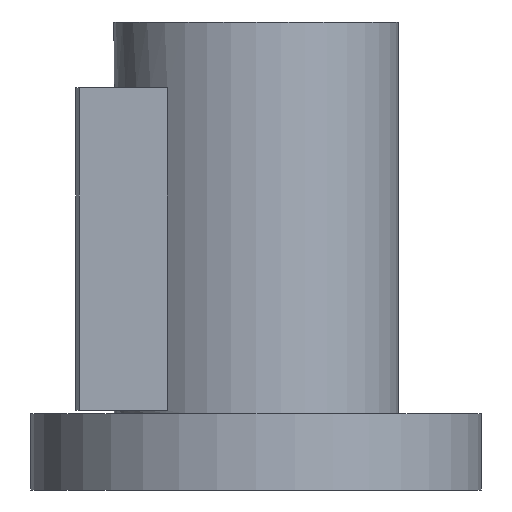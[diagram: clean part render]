
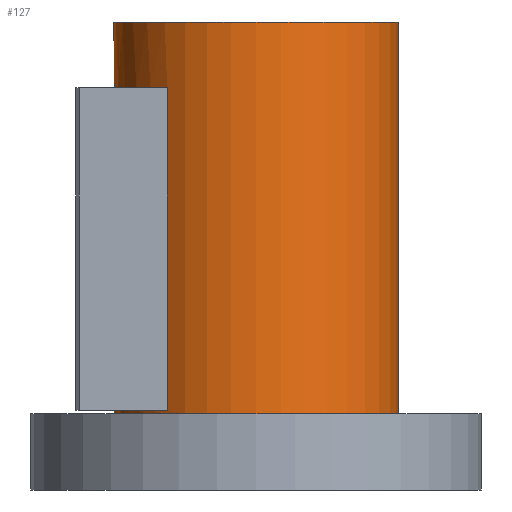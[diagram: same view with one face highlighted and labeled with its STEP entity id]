
A CAD part, front view. The second image highlights one B-rep face of the part: STEP entity #127.
In plain terms, the highlighted cylindrical face has radius 41 mm (diameter 82 mm), a full revolution.
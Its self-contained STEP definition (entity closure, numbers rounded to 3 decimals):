
#127=ADVANCED_FACE('',(#200,#201,#202),#155,.T.);
#155=CYLINDRICAL_SURFACE('',#508,41.);
#168=LINE('',#698,#184);
#169=LINE('',#702,#185);
#184=VECTOR('',#568,1.);
#185=VECTOR('',#571,1.);
#200=FACE_BOUND('',#245,.T.);
#201=FACE_BOUND('',#246,.T.);
#202=FACE_BOUND('',#247,.T.);
#245=EDGE_LOOP('',(#305));
#246=EDGE_LOOP('',(#306));
#247=EDGE_LOOP('',(#307,#308,#309,#310));
#305=ORIENTED_EDGE('',*,*,#431,.F.);
#306=ORIENTED_EDGE('',*,*,#432,.T.);
#307=ORIENTED_EDGE('',*,*,#433,.F.);
#308=ORIENTED_EDGE('',*,*,#434,.F.);
#309=ORIENTED_EDGE('',*,*,#435,.T.);
#310=ORIENTED_EDGE('',*,*,#436,.F.);
#393=VERTEX_POINT('',#692);
#394=VERTEX_POINT('',#694);
#395=VERTEX_POINT('',#696);
#396=VERTEX_POINT('',#697);
#397=VERTEX_POINT('',#699);
#398=VERTEX_POINT('',#701);
#431=EDGE_CURVE('',#393,#393,#475,.T.);
#432=EDGE_CURVE('',#394,#394,#476,.T.);
#433=EDGE_CURVE('',#395,#396,#477,.T.);
#434=EDGE_CURVE('',#397,#395,#168,.T.);
#435=EDGE_CURVE('',#397,#398,#478,.T.);
#436=EDGE_CURVE('',#396,#398,#169,.T.);
#475=CIRCLE('',#504,41.);
#476=CIRCLE('',#505,41.);
#477=CIRCLE('',#506,41.);
#478=CIRCLE('',#507,41.);
#504=AXIS2_PLACEMENT_3D('',#691,#562,#563);
#505=AXIS2_PLACEMENT_3D('',#693,#564,#565);
#506=AXIS2_PLACEMENT_3D('',#695,#566,#567);
#507=AXIS2_PLACEMENT_3D('',#700,#569,#570);
#508=AXIS2_PLACEMENT_3D('',#703,#572,#573);
#562=DIRECTION('',(0.,0.,1.));
#563=DIRECTION('',(1.,0.,0.));
#564=DIRECTION('',(0.,0.,1.));
#565=DIRECTION('',(1.,0.,0.));
#566=DIRECTION('',(0.,0.,-1.));
#567=DIRECTION('',(-1.,0.,0.));
#568=DIRECTION('',(0.,0.,1.));
#569=DIRECTION('',(0.,0.,-1.));
#570=DIRECTION('',(-1.,0.,0.));
#571=DIRECTION('',(0.,0.,-1.));
#572=DIRECTION('',(0.,0.,-1.));
#573=DIRECTION('',(-1.,0.,0.));
#691=CARTESIAN_POINT('',(0.,0.,135.));
#692=CARTESIAN_POINT('',(41.,0.,135.));
#693=CARTESIAN_POINT('',(0.,0.,22.));
#694=CARTESIAN_POINT('',(41.,0.,22.));
#695=CARTESIAN_POINT('',(0.,0.,116.));
#696=CARTESIAN_POINT('',(-25.632,-32.,116.));
#697=CARTESIAN_POINT('',(-25.632,32.,116.));
#698=CARTESIAN_POINT('',(-25.632,-32.,135.));
#699=CARTESIAN_POINT('',(-25.632,-32.,23.));
#700=CARTESIAN_POINT('',(0.,0.,23.));
#701=CARTESIAN_POINT('',(-25.632,32.,23.));
#702=CARTESIAN_POINT('',(-25.632,32.,135.));
#703=CARTESIAN_POINT('',(0.,0.,135.));
